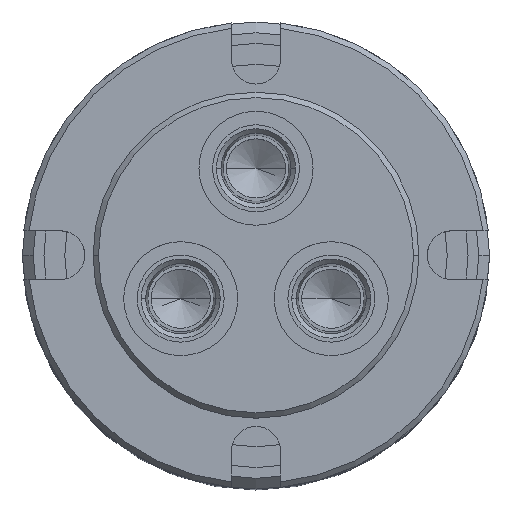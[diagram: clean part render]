
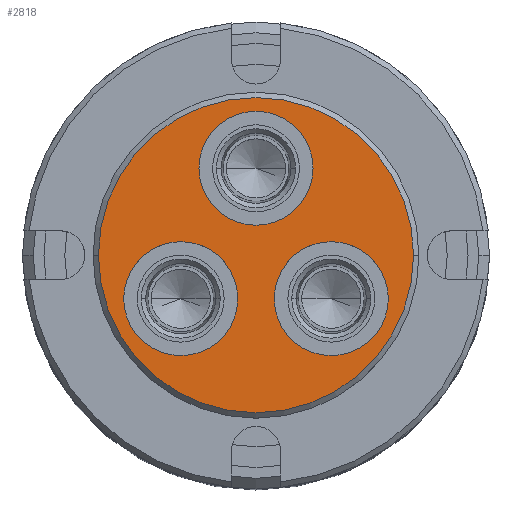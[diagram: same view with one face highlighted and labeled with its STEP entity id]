
A CAD part, top view. The second image highlights one B-rep face of the part: STEP entity #2818.
In plain terms, the highlighted planar face has unit normal (0, 0, 1).
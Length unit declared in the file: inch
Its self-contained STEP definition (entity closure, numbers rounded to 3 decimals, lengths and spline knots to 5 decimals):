
#57 = AXIS2_PLACEMENT_3D ( 'NONE', #6135, #6136, #6137 ) ;
#83 = AXIS2_PLACEMENT_3D ( 'NONE', #2041, #2042, #2043 ) ;
#146 = AXIS2_PLACEMENT_3D ( 'NONE', #6333, #6334, #6335 ) ;
#178 = CIRCLE ( 'NONE', #83, 0.9065 ) ;
#224 = AXIS2_PLACEMENT_3D ( 'NONE', #2036, #2037, #2038 ) ;
#261 = CIRCLE ( 'NONE', #224, 0.328 ) ;
#271 = CIRCLE ( 'NONE', #146, 0.328 ) ;
#725 = ORIENTED_EDGE ( 'NONE', *, *, #2591, .F. ) ;
#731 = ORIENTED_EDGE ( 'NONE', *, *, #2404, .F. ) ;
#743 = ORIENTED_EDGE ( 'NONE', *, *, #2430, .T. ) ;
#746 = ORIENTED_EDGE ( 'NONE', *, *, #2518, .F. ) ;
#784 = ORIENTED_EDGE ( 'NONE', *, *, #2720, .F. ) ;
#786 = ORIENTED_EDGE ( 'NONE', *, *, #2858, .F. ) ;
#839 = ORIENTED_EDGE ( 'NONE', *, *, #2447, .F. ) ;
#841 = ORIENTED_EDGE ( 'NONE', *, *, #2721, .T. ) ;
#1156 = EDGE_LOOP ( 'NONE', ( #743, #841 ) ) ;
#1158 = EDGE_LOOP ( 'NONE', ( #786, #784 ) ) ;
#1160 = EDGE_LOOP ( 'NONE', ( #731, #725 ) ) ;
#1163 = EDGE_LOOP ( 'NONE', ( #746, #839 ) ) ;
#2036 = CARTESIAN_POINT ( 'NONE',  ( 0.43301, -0.25, 0. ) ) ;
#2037 = DIRECTION ( 'NONE',  ( 0., 0., 1. ) ) ;
#2038 = DIRECTION ( 'NONE',  ( -0.5, -0.866, 0. ) ) ;
#2041 = CARTESIAN_POINT ( 'NONE',  ( 0., 0., 0. ) ) ;
#2042 = DIRECTION ( 'NONE',  ( 0., 0., 1. ) ) ;
#2043 = DIRECTION ( 'NONE',  ( -1., 0., 0. ) ) ;
#2404 = EDGE_CURVE ( 'NONE', #4880, #4879, #4429, .T. ) ;
#2430 = EDGE_CURVE ( 'NONE', #4962, #4987, #4682, .T. ) ;
#2447 = EDGE_CURVE ( 'NONE', #4963, #4814, #4522, .T. ) ;
#2518 = EDGE_CURVE ( 'NONE', #4814, #4963, #4301, .T. ) ;
#2591 = EDGE_CURVE ( 'NONE', #4879, #4880, #4389, .T. ) ;
#2720 = EDGE_CURVE ( 'NONE', #4825, #4826, #261, .T. ) ;
#2721 = EDGE_CURVE ( 'NONE', #4987, #4962, #178, .T. ) ;
#2818 = ADVANCED_FACE ( 'NONE', ( #6113, #6118, #6123, #6120 ), #6114, .F. ) ;
#2858 = EDGE_CURVE ( 'NONE', #4826, #4825, #271, .T. ) ;
#2954 = CARTESIAN_POINT ( 'NONE',  ( 0., 0., 0. ) ) ;
#2955 = DIRECTION ( 'NONE',  ( 0., 0., 1. ) ) ;
#2956 = DIRECTION ( 'NONE',  ( -1., 0., 0. ) ) ;
#3075 = CARTESIAN_POINT ( 'NONE',  ( 0., 0.5, 0. ) ) ;
#3076 = DIRECTION ( 'NONE',  ( 0., 0., 1. ) ) ;
#3077 = DIRECTION ( 'NONE',  ( 1., 0., 0. ) ) ;
#3525 = CARTESIAN_POINT ( 'NONE',  ( 0., 0.5, 0. ) ) ;
#3526 = DIRECTION ( 'NONE',  ( 0., 0., 1. ) ) ;
#3527 = DIRECTION ( 'NONE',  ( 1., 0., 0. ) ) ;
#3863 = CARTESIAN_POINT ( 'NONE',  ( -0.43301, -0.25, 0. ) ) ;
#3864 = DIRECTION ( 'NONE',  ( 0., 0., 1. ) ) ;
#3865 = DIRECTION ( 'NONE',  ( -0.5, 0.866, 0. ) ) ;
#4023 = AXIS2_PLACEMENT_3D ( 'NONE', #5631, #5632, #5633 ) ;
#4301 = CIRCLE ( 'NONE', #4508, 0.328 ) ;
#4332 = AXIS2_PLACEMENT_3D ( 'NONE', #3075, #3076, #3077 ) ;
#4389 = CIRCLE ( 'NONE', #4424, 0.328 ) ;
#4424 = AXIS2_PLACEMENT_3D ( 'NONE', #3863, #3864, #3865 ) ;
#4429 = CIRCLE ( 'NONE', #4023, 0.328 ) ;
#4496 = AXIS2_PLACEMENT_3D ( 'NONE', #2954, #2955, #2956 ) ;
#4508 = AXIS2_PLACEMENT_3D ( 'NONE', #3525, #3526, #3527 ) ;
#4522 = CIRCLE ( 'NONE', #4332, 0.328 ) ;
#4682 = CIRCLE ( 'NONE', #4496, 0.9065 ) ;
#4814 = VERTEX_POINT ( 'NONE', #6480 ) ;
#4825 = VERTEX_POINT ( 'NONE', #6491 ) ;
#4826 = VERTEX_POINT ( 'NONE', #6492 ) ;
#4879 = VERTEX_POINT ( 'NONE', #6545 ) ;
#4880 = VERTEX_POINT ( 'NONE', #6546 ) ;
#4962 = VERTEX_POINT ( 'NONE', #6628 ) ;
#4963 = VERTEX_POINT ( 'NONE', #6629 ) ;
#4987 = VERTEX_POINT ( 'NONE', #6653 ) ;
#5631 = CARTESIAN_POINT ( 'NONE',  ( -0.43301, -0.25, 0. ) ) ;
#5632 = DIRECTION ( 'NONE',  ( 0., 0., 1. ) ) ;
#5633 = DIRECTION ( 'NONE',  ( -0.5, 0.866, 0. ) ) ;
#6113 = FACE_BOUND ( 'NONE', #1160, .T. ) ;
#6114 = PLANE ( 'NONE',  #57 ) ;
#6118 = FACE_BOUND ( 'NONE', #1158, .T. ) ;
#6120 = FACE_OUTER_BOUND ( 'NONE', #1156, .T. ) ;
#6123 = FACE_BOUND ( 'NONE', #1163, .T. ) ;
#6135 = CARTESIAN_POINT ( 'NONE',  ( 0., 0., 0. ) ) ;
#6136 = DIRECTION ( 'NONE',  ( 0., 0., -1. ) ) ;
#6137 = DIRECTION ( 'NONE',  ( -1., 0., 0. ) ) ;
#6333 = CARTESIAN_POINT ( 'NONE',  ( 0.43301, -0.25, 0. ) ) ;
#6334 = DIRECTION ( 'NONE',  ( 0., 0., 1. ) ) ;
#6335 = DIRECTION ( 'NONE',  ( -0.5, -0.866, 0. ) ) ;
#6480 = CARTESIAN_POINT ( 'NONE',  ( 0.328, 0.5, 0. ) ) ;
#6491 = CARTESIAN_POINT ( 'NONE',  ( 0.10501, -0.25, 0. ) ) ;
#6492 = CARTESIAN_POINT ( 'NONE',  ( 0.76101, -0.25, 0. ) ) ;
#6545 = CARTESIAN_POINT ( 'NONE',  ( -0.76101, -0.25, 0. ) ) ;
#6546 = CARTESIAN_POINT ( 'NONE',  ( -0.10501, -0.25, 0. ) ) ;
#6628 = CARTESIAN_POINT ( 'NONE',  ( -0.9065, 0., 0. ) ) ;
#6629 = CARTESIAN_POINT ( 'NONE',  ( -0.328, 0.5, 0. ) ) ;
#6653 = CARTESIAN_POINT ( 'NONE',  ( 0.9065, 0., 0. ) ) ;
